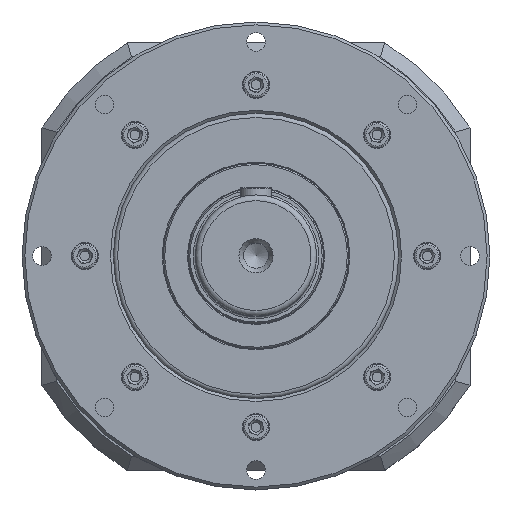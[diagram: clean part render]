
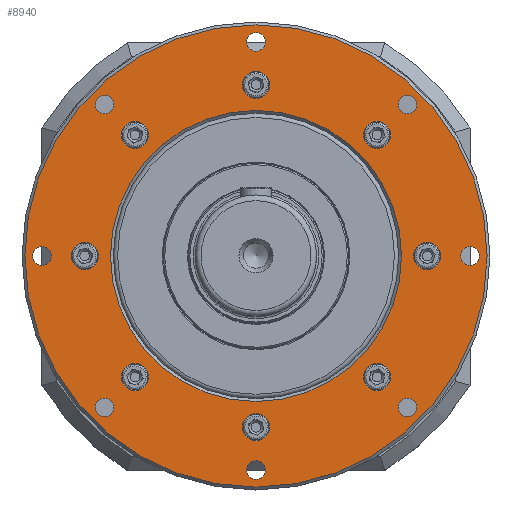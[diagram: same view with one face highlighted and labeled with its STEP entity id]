
A CAD part, top view. The second image highlights one B-rep face of the part: STEP entity #8940.
In plain terms, the highlighted planar face has unit normal (0, 0, 1).
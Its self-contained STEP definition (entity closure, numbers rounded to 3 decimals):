
#8078=CARTESIAN_POINT('',(-162.,0.0,-14.));
#8079=VERTEX_POINT('',#8078);
#8080=CARTESIAN_POINT('',(0.0,0.0,-14.));
#8081=DIRECTION('',(0.0,0.0,1.0));
#8082=DIRECTION('',(1.0,0.0,0.0));
#8083=AXIS2_PLACEMENT_3D('',#8080,#8081,#8082);
#8084=CIRCLE('',#8083,162.);
#8085=EDGE_CURVE('',#8079,#8079,#8084,.T.);
#8145=CARTESIAN_POINT('',(102.,0.0,-14.));
#8146=VERTEX_POINT('',#8145);
#8147=CARTESIAN_POINT('',(0.0,0.0,-14.));
#8148=DIRECTION('',(0.0,0.0,-1.0));
#8149=DIRECTION('',(1.0,0.0,0.0));
#8150=AXIS2_PLACEMENT_3D('',#8147,#8148,#8149);
#8151=CIRCLE('',#8150,102.);
#8152=EDGE_CURVE('',#8146,#8146,#8151,.T.);
#8201=CARTESIAN_POINT('',(9.5,120.0,-14.));
#8202=VERTEX_POINT('',#8201);
#8203=CARTESIAN_POINT('',(0.0,120.0,-14.));
#8204=DIRECTION('',(0.0,0.0,1.0));
#8205=DIRECTION('',(1.0,0.0,0.0));
#8206=AXIS2_PLACEMENT_3D('',#8203,#8204,#8205);
#8207=CIRCLE('',#8206,9.5);
#8208=EDGE_CURVE('',#8202,#8202,#8207,.T.);
#8257=CARTESIAN_POINT('',(9.5,-120.0,-14.));
#8258=VERTEX_POINT('',#8257);
#8259=CARTESIAN_POINT('',(0.0,-120.0,-14.));
#8260=DIRECTION('',(0.0,0.0,1.0));
#8261=DIRECTION('',(1.0,0.0,0.0));
#8262=AXIS2_PLACEMENT_3D('',#8259,#8260,#8261);
#8263=CIRCLE('',#8262,9.5);
#8264=EDGE_CURVE('',#8258,#8258,#8263,.T.);
#8313=CARTESIAN_POINT('',(94.353,84.853,-14.));
#8314=VERTEX_POINT('',#8313);
#8315=CARTESIAN_POINT('',(84.853,84.853,-14.));
#8316=DIRECTION('',(0.0,0.0,1.0));
#8317=DIRECTION('',(1.0,0.0,0.0));
#8318=AXIS2_PLACEMENT_3D('',#8315,#8316,#8317);
#8319=CIRCLE('',#8318,9.5);
#8320=EDGE_CURVE('',#8314,#8314,#8319,.T.);
#8369=CARTESIAN_POINT('',(-75.353,-84.853,-14.));
#8370=VERTEX_POINT('',#8369);
#8371=CARTESIAN_POINT('',(-84.853,-84.853,-14.));
#8372=DIRECTION('',(0.0,0.0,1.0));
#8373=DIRECTION('',(1.0,0.0,0.0));
#8374=AXIS2_PLACEMENT_3D('',#8371,#8372,#8373);
#8375=CIRCLE('',#8374,9.5);
#8376=EDGE_CURVE('',#8370,#8370,#8375,.T.);
#8425=CARTESIAN_POINT('',(129.5,0.,-14.));
#8426=VERTEX_POINT('',#8425);
#8427=CARTESIAN_POINT('',(120.0,0.,-14.));
#8428=DIRECTION('',(0.0,0.0,1.0));
#8429=DIRECTION('',(1.0,0.0,0.0));
#8430=AXIS2_PLACEMENT_3D('',#8427,#8428,#8429);
#8431=CIRCLE('',#8430,9.5);
#8432=EDGE_CURVE('',#8426,#8426,#8431,.T.);
#8481=CARTESIAN_POINT('',(-110.5,0.,-14.));
#8482=VERTEX_POINT('',#8481);
#8483=CARTESIAN_POINT('',(-120.0,0.,-14.));
#8484=DIRECTION('',(0.0,0.0,1.0));
#8485=DIRECTION('',(1.0,0.0,0.0));
#8486=AXIS2_PLACEMENT_3D('',#8483,#8484,#8485);
#8487=CIRCLE('',#8486,9.5);
#8488=EDGE_CURVE('',#8482,#8482,#8487,.T.);
#8537=CARTESIAN_POINT('',(94.353,-84.853,-14.));
#8538=VERTEX_POINT('',#8537);
#8539=CARTESIAN_POINT('',(84.853,-84.853,-14.));
#8540=DIRECTION('',(0.0,0.0,1.0));
#8541=DIRECTION('',(1.0,0.0,0.0));
#8542=AXIS2_PLACEMENT_3D('',#8539,#8540,#8541);
#8543=CIRCLE('',#8542,9.5);
#8544=EDGE_CURVE('',#8538,#8538,#8543,.T.);
#8593=CARTESIAN_POINT('',(-75.353,84.853,-14.));
#8594=VERTEX_POINT('',#8593);
#8595=CARTESIAN_POINT('',(-84.853,84.853,-14.));
#8596=DIRECTION('',(0.0,0.0,1.0));
#8597=DIRECTION('',(1.0,0.0,0.0));
#8598=AXIS2_PLACEMENT_3D('',#8595,#8596,#8597);
#8599=CIRCLE('',#8598,9.5);
#8600=EDGE_CURVE('',#8594,#8594,#8599,.T.);
#8649=CARTESIAN_POINT('',(6.5,150.,-14.));
#8650=VERTEX_POINT('',#8649);
#8651=CARTESIAN_POINT('',(0.0,150.,-14.));
#8652=DIRECTION('',(0.0,0.0,1.0));
#8653=DIRECTION('',(1.0,0.0,0.0));
#8654=AXIS2_PLACEMENT_3D('',#8651,#8652,#8653);
#8655=CIRCLE('',#8654,6.5);
#8656=EDGE_CURVE('',#8650,#8650,#8655,.T.);
#8677=CARTESIAN_POINT('',(6.5,-150.,-14.));
#8678=VERTEX_POINT('',#8677);
#8679=CARTESIAN_POINT('',(0.0,-150.,-14.));
#8680=DIRECTION('',(0.0,0.0,1.0));
#8681=DIRECTION('',(1.0,0.0,0.0));
#8682=AXIS2_PLACEMENT_3D('',#8679,#8680,#8681);
#8683=CIRCLE('',#8682,6.5);
#8684=EDGE_CURVE('',#8678,#8678,#8683,.T.);
#8705=CARTESIAN_POINT('',(112.566,106.066,-14.));
#8706=VERTEX_POINT('',#8705);
#8707=CARTESIAN_POINT('',(106.066,106.066,-14.));
#8708=DIRECTION('',(0.0,0.0,1.0));
#8709=DIRECTION('',(1.0,0.0,0.0));
#8710=AXIS2_PLACEMENT_3D('',#8707,#8708,#8709);
#8711=CIRCLE('',#8710,6.5);
#8712=EDGE_CURVE('',#8706,#8706,#8711,.T.);
#8733=CARTESIAN_POINT('',(-99.566,-106.066,-14.));
#8734=VERTEX_POINT('',#8733);
#8735=CARTESIAN_POINT('',(-106.066,-106.066,-14.));
#8736=DIRECTION('',(0.0,0.0,1.0));
#8737=DIRECTION('',(1.0,0.0,0.0));
#8738=AXIS2_PLACEMENT_3D('',#8735,#8736,#8737);
#8739=CIRCLE('',#8738,6.5);
#8740=EDGE_CURVE('',#8734,#8734,#8739,.T.);
#8761=CARTESIAN_POINT('',(156.5,0.,-14.));
#8762=VERTEX_POINT('',#8761);
#8763=CARTESIAN_POINT('',(150.0,0.,-14.));
#8764=DIRECTION('',(0.0,0.0,1.0));
#8765=DIRECTION('',(1.0,0.0,0.0));
#8766=AXIS2_PLACEMENT_3D('',#8763,#8764,#8765);
#8767=CIRCLE('',#8766,6.5);
#8768=EDGE_CURVE('',#8762,#8762,#8767,.T.);
#8789=CARTESIAN_POINT('',(-143.5,0.,-14.));
#8790=VERTEX_POINT('',#8789);
#8791=CARTESIAN_POINT('',(-150.,0.,-14.));
#8792=DIRECTION('',(0.0,0.0,1.0));
#8793=DIRECTION('',(1.0,0.0,0.0));
#8794=AXIS2_PLACEMENT_3D('',#8791,#8792,#8793);
#8795=CIRCLE('',#8794,6.5);
#8796=EDGE_CURVE('',#8790,#8790,#8795,.T.);
#8817=CARTESIAN_POINT('',(112.566,-106.066,-14.));
#8818=VERTEX_POINT('',#8817);
#8819=CARTESIAN_POINT('',(106.066,-106.066,-14.));
#8820=DIRECTION('',(0.0,0.0,1.0));
#8821=DIRECTION('',(1.0,0.0,0.0));
#8822=AXIS2_PLACEMENT_3D('',#8819,#8820,#8821);
#8823=CIRCLE('',#8822,6.5);
#8824=EDGE_CURVE('',#8818,#8818,#8823,.T.);
#8845=CARTESIAN_POINT('',(-99.566,106.066,-14.));
#8846=VERTEX_POINT('',#8845);
#8847=CARTESIAN_POINT('',(-106.066,106.066,-14.));
#8848=DIRECTION('',(0.0,0.0,1.0));
#8849=DIRECTION('',(1.0,0.0,0.0));
#8850=AXIS2_PLACEMENT_3D('',#8847,#8848,#8849);
#8851=CIRCLE('',#8850,6.5);
#8852=EDGE_CURVE('',#8846,#8846,#8851,.T.);
#8881=CARTESIAN_POINT('',(0.0,0.0,-14.));
#8882=DIRECTION('',(0.0,0.0,1.0));
#8883=DIRECTION('',(1.0,0.0,0.0));
#8884=AXIS2_PLACEMENT_3D('',#8881,#8882,#8883);
#8885=PLANE('',#8884);
#8886=ORIENTED_EDGE('',*,*,#8085,.T.);
#8887=EDGE_LOOP('',(#8886));
#8888=FACE_OUTER_BOUND('',#8887,.T.);
#8889=ORIENTED_EDGE('',*,*,#8152,.T.);
#8890=EDGE_LOOP('',(#8889));
#8891=FACE_BOUND('',#8890,.T.);
#8892=ORIENTED_EDGE('',*,*,#8208,.F.);
#8893=EDGE_LOOP('',(#8892));
#8894=FACE_BOUND('',#8893,.T.);
#8895=ORIENTED_EDGE('',*,*,#8264,.F.);
#8896=EDGE_LOOP('',(#8895));
#8897=FACE_BOUND('',#8896,.T.);
#8898=ORIENTED_EDGE('',*,*,#8320,.F.);
#8899=EDGE_LOOP('',(#8898));
#8900=FACE_BOUND('',#8899,.T.);
#8901=ORIENTED_EDGE('',*,*,#8376,.F.);
#8902=EDGE_LOOP('',(#8901));
#8903=FACE_BOUND('',#8902,.T.);
#8904=ORIENTED_EDGE('',*,*,#8432,.F.);
#8905=EDGE_LOOP('',(#8904));
#8906=FACE_BOUND('',#8905,.T.);
#8907=ORIENTED_EDGE('',*,*,#8488,.F.);
#8908=EDGE_LOOP('',(#8907));
#8909=FACE_BOUND('',#8908,.T.);
#8910=ORIENTED_EDGE('',*,*,#8544,.F.);
#8911=EDGE_LOOP('',(#8910));
#8912=FACE_BOUND('',#8911,.T.);
#8913=ORIENTED_EDGE('',*,*,#8600,.F.);
#8914=EDGE_LOOP('',(#8913));
#8915=FACE_BOUND('',#8914,.T.);
#8916=ORIENTED_EDGE('',*,*,#8656,.F.);
#8917=EDGE_LOOP('',(#8916));
#8918=FACE_BOUND('',#8917,.T.);
#8919=ORIENTED_EDGE('',*,*,#8684,.F.);
#8920=EDGE_LOOP('',(#8919));
#8921=FACE_BOUND('',#8920,.T.);
#8922=ORIENTED_EDGE('',*,*,#8712,.F.);
#8923=EDGE_LOOP('',(#8922));
#8924=FACE_BOUND('',#8923,.T.);
#8925=ORIENTED_EDGE('',*,*,#8740,.F.);
#8926=EDGE_LOOP('',(#8925));
#8927=FACE_BOUND('',#8926,.T.);
#8928=ORIENTED_EDGE('',*,*,#8768,.F.);
#8929=EDGE_LOOP('',(#8928));
#8930=FACE_BOUND('',#8929,.T.);
#8931=ORIENTED_EDGE('',*,*,#8796,.F.);
#8932=EDGE_LOOP('',(#8931));
#8933=FACE_BOUND('',#8932,.T.);
#8934=ORIENTED_EDGE('',*,*,#8824,.F.);
#8935=EDGE_LOOP('',(#8934));
#8936=FACE_BOUND('',#8935,.T.);
#8937=ORIENTED_EDGE('',*,*,#8852,.F.);
#8938=EDGE_LOOP('',(#8937));
#8939=FACE_BOUND('',#8938,.T.);
#8940=ADVANCED_FACE('',(#8888,#8891,#8894,#8897,#8900,#8903,#8906,#8909,#8912,#8915,#8918,#8921,#8924,#8927,#8930,#8933,#8936,#8939),#8885,.T.);
